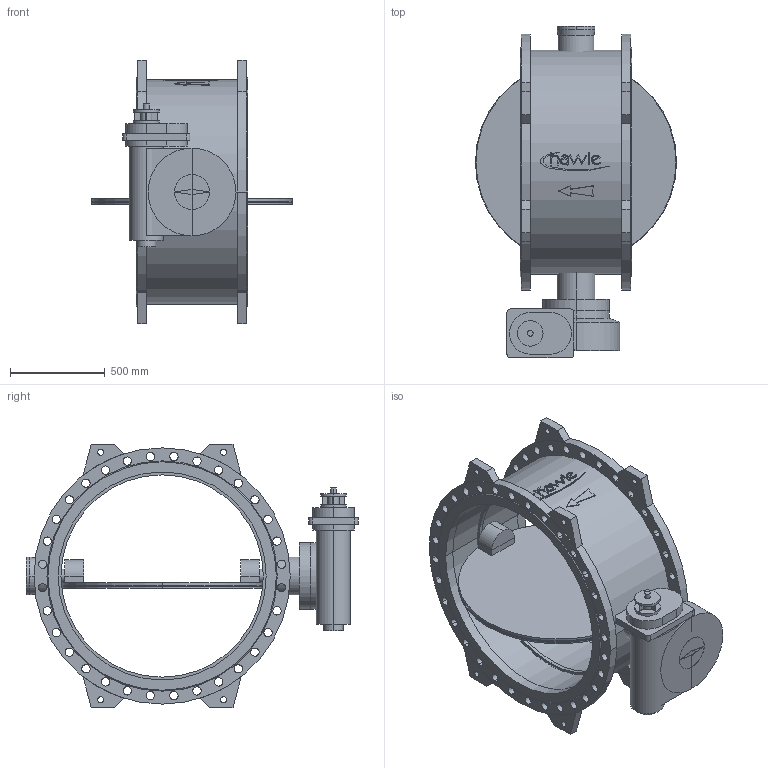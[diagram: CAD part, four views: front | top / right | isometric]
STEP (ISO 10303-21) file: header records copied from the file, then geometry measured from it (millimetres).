
FILE_DESCRIPTION(('STEP AP214'),'1');
FILE_NAME('S:/EK/USER/CAT6/3DHomepage_27-04-2012/neu_08-01-2013/9881K/9881K_PN16_DN1100.STP','2013-03-11T15:54:14',(' '),(' '),'Spatial InterOp 3D',' ',' ');
FILE_SCHEMA(('automotive_design'));
Length unit declared in the file: millimetre
Products named in the file (52): 3D-Objekt
Bounding box: 1064 x 1756 x 1392 mm (x, y, z)
Volume: 242300063.5 mm3; surface area: 13136013.1 mm2
Topology: 52 solids, 52 shells, 481 faces, 1122 edges, 748 vertices
Faces by surface type: cylinder 259, plane 214, cone 8
Entity records: 19308 total; most frequent: DIRECTION 2722, CARTESIAN_POINT 2403, ORIENTED_EDGE 2244, EDGE_CURVE 1122, AXIS2_PLACEMENT_3D 1067, VERTEX_POINT 748, EDGE_LOOP 640, LINE 588
